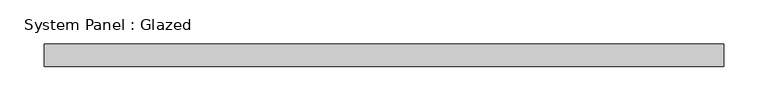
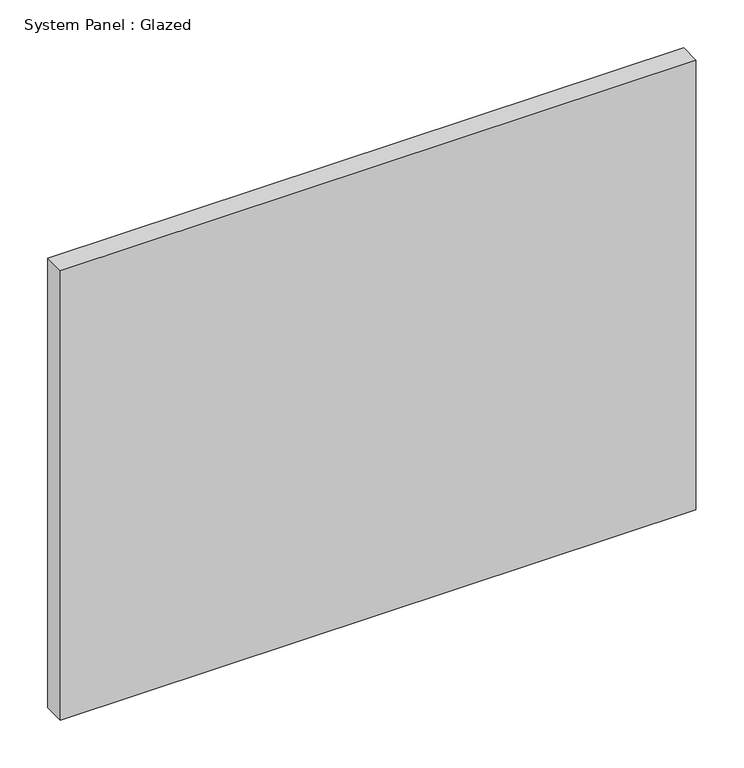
"""IFC4 building model written with IfcOpenShell, lengths in millimetres: plate geometry, System Panel : Glazed."""

from ifc_helpers import new_model, si_unit, origin, origin_with_axes, place, context, project, spatial, polyline, outline, extrude, source, transform, mapped, element, save


def system_panel_glazed_d513fe3e(model_context):
    return source(origin(), model_context, "Body", "SweptSolid", [
        extrude(outline(polyline([(382.3136177, 19.05), (-382.3136177, 19.05), (-382.3136177, 44.45), (382.3136177, 44.45), (382.3136177, 19.05)])), origin_with_axes(), (0.0, 0.0, 1.0), 571.5),
    ])


if __name__ == "__main__":
    model = new_model("IFC4")
    model_context = context("Model", 3, world=origin())
    ifc_project = project(units=[si_unit("LENGTHUNIT", "METRE", prefix="MILLI")], contexts=[model_context])
    site = spatial("IfcSite", under=ifc_project)
    building = spatial("IfcBuilding", under=site)
    placement = place(None, origin())
    system_panel_glazed_shape = system_panel_glazed_d513fe3e(model_context)
    element("IfcPlate", 1, ObjectType="System Panel : Glazed", at=placement, inside=building, context=model_context, shape_type="MappedRepresentation", body=[
        mapped(system_panel_glazed_shape, transform((0.0, 0.0, 0.0), x_axis=(1.0, 0.0, 0.0), y_axis=(0.0, 1.0, 0.0), z_axis=(0.0, 0.0, 1.0))),
    ])
    save(model, "model.ifc")
